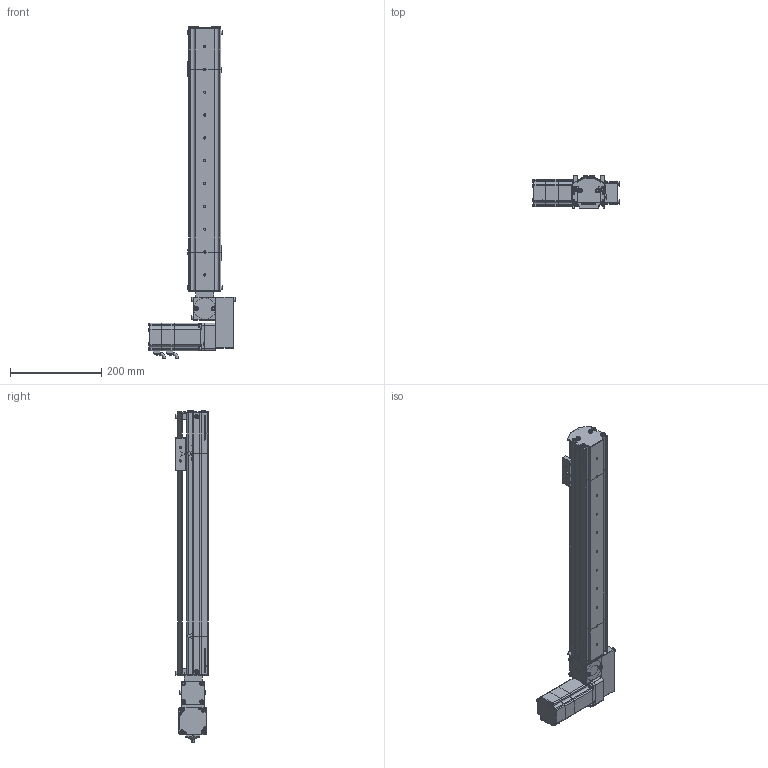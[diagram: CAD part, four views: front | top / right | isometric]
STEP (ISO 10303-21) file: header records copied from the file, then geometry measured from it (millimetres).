
FILE_DESCRIPTION (( 'STEP AP214' ), '1' );
FILE_NAME ('S07 TB LH S400.STEP', '2010-06-29T11:25:39', ( 'Conseil Régional Haute-Normandie' ), ( 'Conseil Régional Haute-Normandie' ), 'SwSTEP 2.0', 'SolidWorks 2010', '' );
FILE_SCHEMA (( 'AUTOMOTIVE_DESIGN' ));
Length unit declared in the file: millimetre
Products named in the file (41): cache t皻e axe_Default; Axe 60BLDC_Default; corp moteur LH-RH(146)_Default; plaque de bout LH_Default; couvercle moteur S07 TB; Poulie head_Default; vis M5 L5_Default; cache t皻e_Default; VisM3_Default; Couroie t皻e_Default; Pièce5^S07 LH(146); Plaque racord_Default; GMB 60 90 310_Default; P1_Default; renvoi LH_Default; Conecteur 60BLDC_Default; P3 90A_Default; P4_Default; P2 90A_Default; Conecteur2 60BLDC_Default; Vis M5 L16-2_Default; Cvis M5 L30_Default; S07 TB tail (78)_Default; corp tail TB_Default; Poulie_Default; couvercle tail TB; T皻e de poulie_Default; plaque de bout_Default; S07 LH(146)_Default; couvercle S07 course 400 ; Couroie  course 400_Default; Corp S07 course 400_Default; Course C L400_Default; S07 TB LH S400; couroie tail_Default; vis M5 L12_Default; CHariot_Default; Chariot; guide; vis M5 L16_Default
Assembly tree (80 placements, depth 4):
  Pièce5^S07 LH(146)
  S07 TB LH S400
    S07 TB tail (78)_Default
      vis M5 L12_Default  x10
      plaque de bout_Default
      Poulie_Default
        T皻e de poulie_Default
        Poulie_Default
      corp tail TB_Default
      couvercle tail TB
      couroie tail_Default
    Course C L400_Default
      Couroie  course 400_Default
      Corp S07 course 400_Default
      couvercle S07 course 400 
    S07 LH(146)_Default
      vis M5 L5_Default  x6
      GMB 60 90 310_Default
        P1_Default
        VisM3_Default  x12
        Conecteur2 60BLDC_Default
        P2 90A_Default
        P3 90A_Default
        Axe 60BLDC_Default
        P4_Default
        Conecteur 60BLDC_Default
      Cvis M5 L30_Default  x2
      Vis M5 L16-2_Default  x8
      couvercle moteur S07 TB
      vis M5 L12_Default  x6
      renvoi LH_Default
      plaque de bout LH_Default
      corp moteur LH-RH(146)_Default
      Plaque racord_Default
      Poulie head_Default
      cache t皻e axe_Default
      cache t皻e_Default  x2
      Couroie t皻e_Default
    CHariot_Default
      guide
      vis M5 L16_Default  x2
      Chariot
Bounding box: 190.2 x 72.2 x 727 mm (x, y, z)
Volume: 1711018.5 mm3; surface area: 682849.1 mm2
Topology: 102 solids, 102 shells, 3902 faces, 9732 edges, 6285 vertices
Faces by surface type: plane 2224, cylinder 748, bspline 677, cone 125, torus 124, sphere 4
Entity records: 166689 total; most frequent: CARTESIAN_POINT 75123, ORIENTED_EDGE 15376, DIRECTION 12185, EDGE_CURVE 7688, VERTEX_POINT 5073, VECTOR 5035, LINE 5035, AXIS2_PLACEMENT_3D 3575
